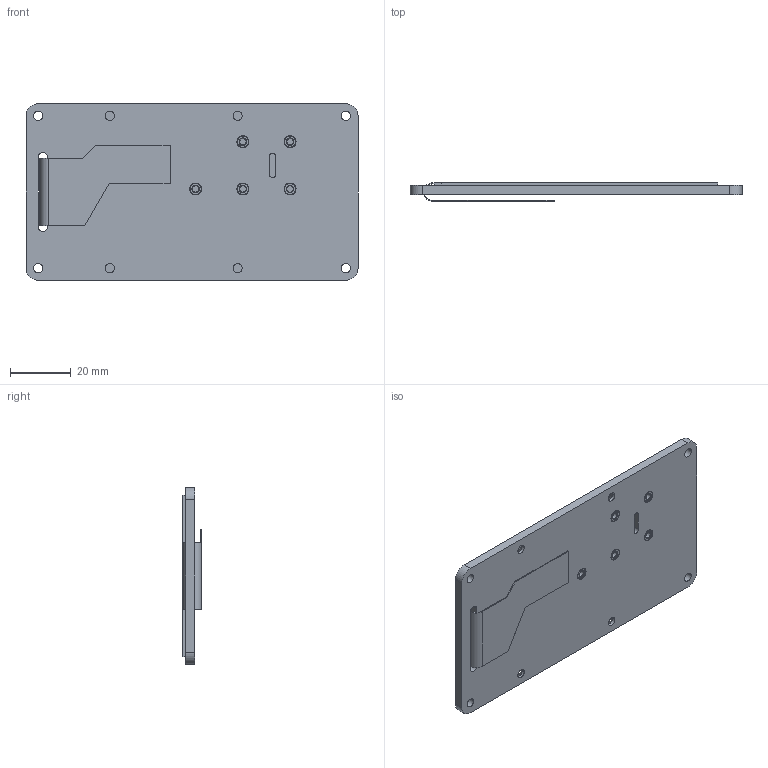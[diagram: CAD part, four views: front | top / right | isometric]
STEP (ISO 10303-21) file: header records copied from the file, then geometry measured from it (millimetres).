
FILE_DESCRIPTION (( 'STEP AP214' ), '1' );
FILE_NAME ('E2370KS0C1.STEP', '2026-07-06T08:50:32', ( '' ), ( '' ), 'SwSTEP 2.0', 'SolidWorks 2008', '' );
FILE_SCHEMA (( 'AUTOMOTIVE_DESIGN' ));
Length unit declared in the file: millimetre
Products named in the file (4): BN_1036_1385496; plate-E2370KS0C1; E2370KS0C1
Assembly tree (7 placements, depth 2):
  E2370KS0C1
    BN_1036_1385496  x5
    E2370KS0C1
    plate-E2370KS0C1
Bounding box: 109 x 6 x 58 mm (x, y, z)
Volume: 24555.8 mm3; surface area: 36067.6 mm2
Topology: 9 solids, 9 shells, 1036 faces, 2970 edges, 1968 vertices
Faces by surface type: cylinder 918, plane 90, cone 28
Entity records: 10947 total; most frequent: DIRECTION 1942, CARTESIAN_POINT 1728, ORIENTED_EDGE 1700, EDGE_CURVE 850, AXIS2_PLACEMENT_3D 774, VERTEX_POINT 560, CIRCLE 456, VECTOR 394
